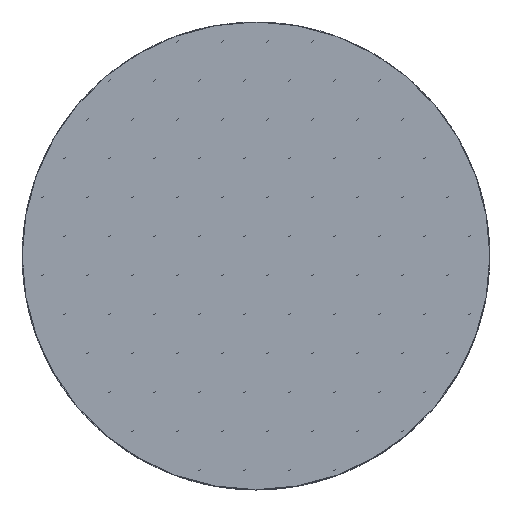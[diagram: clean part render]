
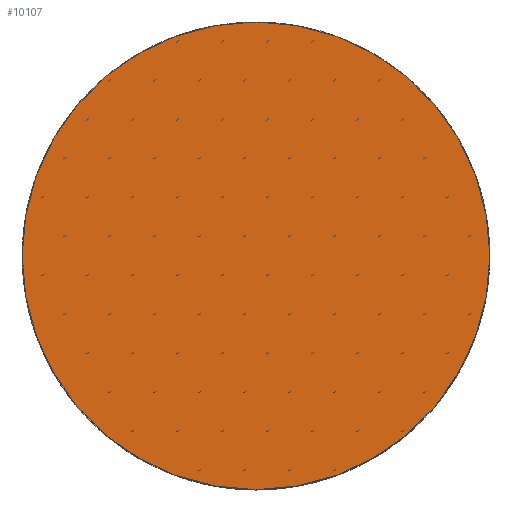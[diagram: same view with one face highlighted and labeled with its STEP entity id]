
A CAD part, top view. The second image highlights one B-rep face of the part: STEP entity #10107.
In plain terms, the highlighted planar face has unit normal (0, 0, 1).
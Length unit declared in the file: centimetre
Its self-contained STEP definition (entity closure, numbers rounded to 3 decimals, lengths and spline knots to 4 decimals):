
#3305=VERTEX_POINT('',#15299);
#4719=EDGE_CURVE('',#3305,#3305,#11517,.T.);
#7547=ORIENTED_EDGE('',*,*,#4719,.F.);
#8401=EDGE_LOOP('',(#7547));
#9255=FACE_BOUND('',#8401,.T.);
#10107=ADVANCED_FACE('',(#9255),#13139,.T.);
#11517=CIRCLE('',#11951,0.6);
#11951=AXIS2_PLACEMENT_3D('',#15298,#16874,#16875);
#11952=AXIS2_PLACEMENT_3D('',#15300,#16876,$);
#13139=PLANE('',#11952);
#15298=CARTESIAN_POINT('',(0.,0.,0.5));
#15299=CARTESIAN_POINT('',(0.6,0.,0.5));
#15300=CARTESIAN_POINT('',(0.,0.,0.5));
#16874=DIRECTION('',(0.,0.,-1.));
#16875=DIRECTION('',(0.6,0.,0.));
#16876=DIRECTION('',(0.,0.,1.));
